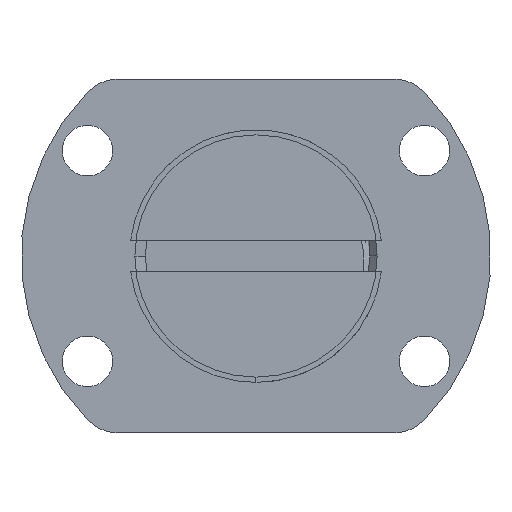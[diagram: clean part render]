
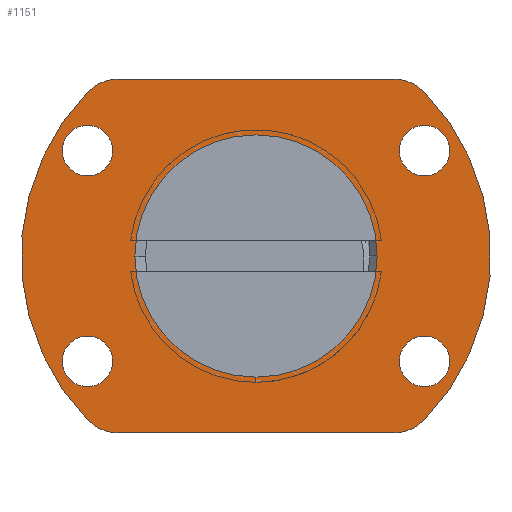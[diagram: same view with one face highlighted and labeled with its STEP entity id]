
A CAD part, front view. The second image highlights one B-rep face of the part: STEP entity #1151.
In plain terms, the highlighted planar face has unit normal (0, -1, 0).
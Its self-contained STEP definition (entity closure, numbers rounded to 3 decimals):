
#1=CARTESIAN_POINT('',(-8.,0.,-5.));
#2=DIRECTION('',(0.,1.,0.));
#3=DIRECTION('',(1.,0.,0.));
#4=AXIS2_PLACEMENT_3D('',#1,#2,#3);
#6=CARTESIAN_POINT('',(-8.,0.,-5.));
#7=DIRECTION('',(0.,1.,0.));
#8=DIRECTION('',(-1.,0.,0.));
#9=AXIS2_PLACEMENT_3D('',#6,#7,#8);
#11=CARTESIAN_POINT('',(8.,0.,-5.));
#12=DIRECTION('',(0.,1.,0.));
#13=DIRECTION('',(1.,0.,0.));
#14=AXIS2_PLACEMENT_3D('',#11,#12,#13);
#16=CARTESIAN_POINT('',(8.,0.,-5.));
#17=DIRECTION('',(0.,1.,0.));
#18=DIRECTION('',(-1.,0.,0.));
#19=AXIS2_PLACEMENT_3D('',#16,#17,#18);
#21=CARTESIAN_POINT('',(-8.,0.,5.));
#22=DIRECTION('',(0.,1.,0.));
#23=DIRECTION('',(1.,0.,0.));
#24=AXIS2_PLACEMENT_3D('',#21,#22,#23);
#26=CARTESIAN_POINT('',(-8.,0.,5.));
#27=DIRECTION('',(0.,1.,0.));
#28=DIRECTION('',(-1.,0.,0.));
#29=AXIS2_PLACEMENT_3D('',#26,#27,#28);
#31=CARTESIAN_POINT('',(8.,0.,5.));
#32=DIRECTION('',(0.,1.,0.));
#33=DIRECTION('',(1.,0.,0.));
#34=AXIS2_PLACEMENT_3D('',#31,#32,#33);
#36=CARTESIAN_POINT('',(8.,0.,5.));
#37=DIRECTION('',(0.,1.,0.));
#38=DIRECTION('',(-1.,0.,0.));
#39=AXIS2_PLACEMENT_3D('',#36,#37,#38);
#41=CARTESIAN_POINT('',(0.,0.,0.));
#42=DIRECTION('',(0.,1.,0.));
#43=DIRECTION('',(0.715,0.,0.699));
#44=AXIS2_PLACEMENT_3D('',#41,#42,#43);
#46=CARTESIAN_POINT('',(6.539,0.,-6.4));
#47=DIRECTION('',(0.,-1.,0.));
#48=DIRECTION('',(0.,0.,-1.));
#49=AXIS2_PLACEMENT_3D('',#46,#47,#48);
#51=CARTESIAN_POINT('',(-6.539,0.,-6.4));
#52=DIRECTION('',(0.,-1.,0.));
#53=DIRECTION('',(-0.715,0.,-0.699));
#54=AXIS2_PLACEMENT_3D('',#51,#52,#53);
#56=CARTESIAN_POINT('',(0.,0.,0.));
#57=DIRECTION('',(0.,1.,0.));
#58=DIRECTION('',(-0.715,0.,-0.699));
#59=AXIS2_PLACEMENT_3D('',#56,#57,#58);
#61=CARTESIAN_POINT('',(-6.539,0.,6.4));
#62=DIRECTION('',(0.,-1.,0.));
#63=DIRECTION('',(0.,0.,1.));
#64=AXIS2_PLACEMENT_3D('',#61,#62,#63);
#66=CARTESIAN_POINT('',(6.539,0.,6.4));
#67=DIRECTION('',(0.,-1.,0.));
#68=DIRECTION('',(0.715,0.,0.699));
#69=AXIS2_PLACEMENT_3D('',#66,#67,#68);
#71=CARTESIAN_POINT('',(0.,0.,0.));
#72=DIRECTION('',(0.,1.,0.));
#73=DIRECTION('',(-1.,0.,0.));
#74=AXIS2_PLACEMENT_3D('',#71,#72,#73);
#76=CARTESIAN_POINT('',(0.,0.,0.));
#77=DIRECTION('',(0.,1.,0.));
#78=DIRECTION('',(1.,0.,0.));
#79=AXIS2_PLACEMENT_3D('',#76,#77,#78);
#836=DIRECTION('',(-1.,0.,0.));
#837=VECTOR('',#836,13.079);
#838=CARTESIAN_POINT('',(6.539,0.,8.4));
#839=LINE('',#838,#837);
#852=DIRECTION('',(1.,0.,0.));
#853=VECTOR('',#852,13.079);
#854=CARTESIAN_POINT('',(-6.539,0.,-8.4));
#855=LINE('',#854,#853);
#959=CARTESIAN_POINT('',(-6.8,0.,-5.));
#960=CARTESIAN_POINT('',(-9.2,0.,-5.));
#961=VERTEX_POINT('',#959);
#962=VERTEX_POINT('',#960);
#963=CARTESIAN_POINT('',(9.2,0.,-5.));
#964=CARTESIAN_POINT('',(6.8,0.,-5.));
#965=VERTEX_POINT('',#963);
#966=VERTEX_POINT('',#964);
#967=CARTESIAN_POINT('',(-6.8,0.,5.));
#968=CARTESIAN_POINT('',(-9.2,0.,5.));
#969=VERTEX_POINT('',#967);
#970=VERTEX_POINT('',#968);
#971=CARTESIAN_POINT('',(9.2,0.,5.));
#972=CARTESIAN_POINT('',(6.8,0.,5.));
#973=VERTEX_POINT('',#971);
#974=VERTEX_POINT('',#972);
#979=CARTESIAN_POINT('',(7.969,0.,7.799));
#980=CARTESIAN_POINT('',(7.969,0.,-7.799));
#981=VERTEX_POINT('',#979);
#982=VERTEX_POINT('',#980);
#1007=CARTESIAN_POINT('',(-5.75,0.,0.));
#1008=CARTESIAN_POINT('',(5.75,0.,0.));
#1009=VERTEX_POINT('',#1007);
#1010=VERTEX_POINT('',#1008);
#1042=CARTESIAN_POINT('',(6.539,0.,-8.4));
#1043=VERTEX_POINT('',#1042);
#1046=CARTESIAN_POINT('',(6.539,0.,8.4));
#1047=VERTEX_POINT('',#1046);
#1050=CARTESIAN_POINT('',(-7.969,0.,-7.799));
#1051=CARTESIAN_POINT('',(-6.539,0.,-8.4));
#1052=VERTEX_POINT('',#1050);
#1053=VERTEX_POINT('',#1051);
#1058=CARTESIAN_POINT('',(-6.539,0.,8.4));
#1059=CARTESIAN_POINT('',(-7.969,0.,7.799));
#1060=VERTEX_POINT('',#1058);
#1061=VERTEX_POINT('',#1059);
#1098=CARTESIAN_POINT('',(0.,0.,0.));
#1099=DIRECTION('',(0.,1.,0.));
#1100=DIRECTION('',(1.,0.,0.));
#1101=AXIS2_PLACEMENT_3D('',#1098,#1099,#1100);
#1102=PLANE('',#1101);
#1104=ORIENTED_EDGE('',*,*,#1103,.T.);
#1106=ORIENTED_EDGE('',*,*,#1105,.F.);
#1108=ORIENTED_EDGE('',*,*,#1107,.F.);
#1110=ORIENTED_EDGE('',*,*,#1109,.F.);
#1112=ORIENTED_EDGE('',*,*,#1111,.T.);
#1114=ORIENTED_EDGE('',*,*,#1113,.F.);
#1116=ORIENTED_EDGE('',*,*,#1115,.F.);
#1118=ORIENTED_EDGE('',*,*,#1117,.F.);
#1119=EDGE_LOOP('',(#1104,#1106,#1108,#1110,#1112,#1114,#1116,#1118));
#1120=FACE_OUTER_BOUND('',#1119,.F.);
#1122=ORIENTED_EDGE('',*,*,#1121,.F.);
#1124=ORIENTED_EDGE('',*,*,#1123,.F.);
#1125=EDGE_LOOP('',(#1122,#1124));
#1126=FACE_BOUND('',#1125,.F.);
#1128=ORIENTED_EDGE('',*,*,#1127,.F.);
#1130=ORIENTED_EDGE('',*,*,#1129,.F.);
#1131=EDGE_LOOP('',(#1128,#1130));
#1132=FACE_BOUND('',#1131,.F.);
#1134=ORIENTED_EDGE('',*,*,#1133,.F.);
#1136=ORIENTED_EDGE('',*,*,#1135,.F.);
#1137=EDGE_LOOP('',(#1134,#1136));
#1138=FACE_BOUND('',#1137,.F.);
#1140=ORIENTED_EDGE('',*,*,#1139,.F.);
#1142=ORIENTED_EDGE('',*,*,#1141,.F.);
#1143=EDGE_LOOP('',(#1140,#1142));
#1144=FACE_BOUND('',#1143,.F.);
#1146=ORIENTED_EDGE('',*,*,#1145,.F.);
#1148=ORIENTED_EDGE('',*,*,#1147,.F.);
#1149=EDGE_LOOP('',(#1146,#1148));
#1150=FACE_BOUND('',#1149,.F.);
#1151=ADVANCED_FACE('',(#1120,#1126,#1132,#1138,#1144,#1150),#1102,.F.);
#5=CIRCLE('',#4,1.2);
#10=CIRCLE('',#9,1.2);
#15=CIRCLE('',#14,1.2);
#20=CIRCLE('',#19,1.2);
#25=CIRCLE('',#24,1.2);
#30=CIRCLE('',#29,1.2);
#35=CIRCLE('',#34,1.2);
#40=CIRCLE('',#39,1.2);
#45=CIRCLE('',#44,11.15);
#50=CIRCLE('',#49,2.);
#55=CIRCLE('',#54,2.);
#60=CIRCLE('',#59,11.15);
#65=CIRCLE('',#64,2.);
#70=CIRCLE('',#69,2.);
#75=CIRCLE('',#74,5.75);
#80=CIRCLE('',#79,5.75);
#1103=EDGE_CURVE('',#981,#982,#45,.T.);
#1105=EDGE_CURVE('',#1043,#982,#50,.T.);
#1107=EDGE_CURVE('',#1053,#1043,#855,.T.);
#1109=EDGE_CURVE('',#1052,#1053,#55,.T.);
#1111=EDGE_CURVE('',#1052,#1061,#60,.T.);
#1113=EDGE_CURVE('',#1060,#1061,#65,.T.);
#1115=EDGE_CURVE('',#1047,#1060,#839,.T.);
#1117=EDGE_CURVE('',#981,#1047,#70,.T.);
#1121=EDGE_CURVE('',#965,#966,#15,.T.);
#1123=EDGE_CURVE('',#966,#965,#20,.T.);
#1127=EDGE_CURVE('',#969,#970,#25,.T.);
#1129=EDGE_CURVE('',#970,#969,#30,.T.);
#1133=EDGE_CURVE('',#973,#974,#35,.T.);
#1135=EDGE_CURVE('',#974,#973,#40,.T.);
#1139=EDGE_CURVE('',#961,#962,#5,.T.);
#1141=EDGE_CURVE('',#962,#961,#10,.T.);
#1145=EDGE_CURVE('',#1009,#1010,#75,.T.);
#1147=EDGE_CURVE('',#1010,#1009,#80,.T.);
